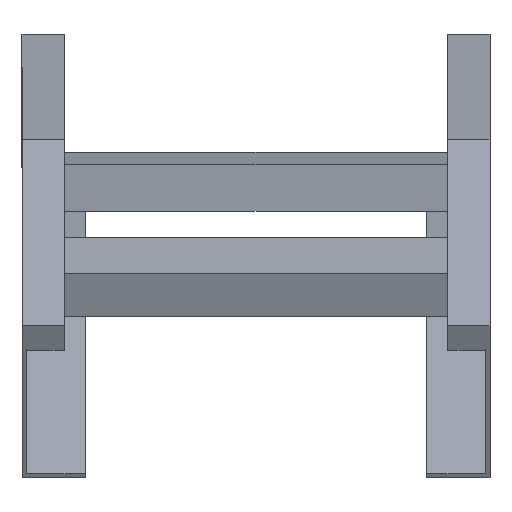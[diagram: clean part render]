
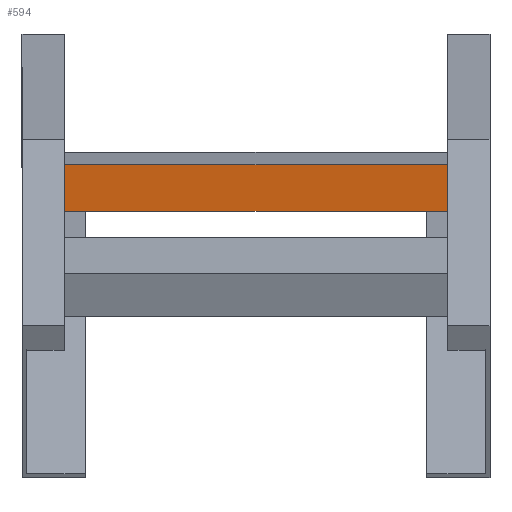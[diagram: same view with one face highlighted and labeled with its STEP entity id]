
A CAD part, top view. The second image highlights one B-rep face of the part: STEP entity #594.
In plain terms, the highlighted planar face has unit normal (0, -0.131, 0.991) as drawn and (0, 0, 1) by its records, which use the part's own axes.
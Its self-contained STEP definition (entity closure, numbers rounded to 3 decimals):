
#1 = CARTESIAN_POINT ( 'NONE',  ( 98., 20., 20.25 ) ) ;
#7 = CARTESIAN_POINT ( 'NONE',  ( 98., 20., 20.25 ) ) ;
#17 = LINE ( 'NONE', #1, #583 ) ;
#39 = AXIS2_PLACEMENT_3D ( 'NONE', #1150, #1049, #1370 ) ;
#73 = ORIENTED_EDGE ( 'NONE', *, *, #219, .T. ) ;
#219 = EDGE_CURVE ( 'NONE', #916, #1043, #1363, .T. ) ;
#233 = PLANE ( 'NONE',  #39 ) ;
#267 = EDGE_CURVE ( 'NONE', #1315, #1043, #1405, .T. ) ;
#330 = ORIENTED_EDGE ( 'NONE', *, *, #603, .T. ) ;
#356 = DIRECTION ( 'NONE',  ( -1., 0., 0. ) ) ;
#580 = FACE_OUTER_BOUND ( 'NONE', #1342, .T. ) ;
#583 = VECTOR ( 'NONE', #1401, 1000. ) ;
#588 = CARTESIAN_POINT ( 'NONE',  ( 98., 20., 20.25 ) ) ;
#594 = ADVANCED_FACE ( 'NONE', ( #580 ), #233, .F. ) ;
#603 = EDGE_CURVE ( 'NONE', #1354, #916, #707, .T. ) ;
#681 = VECTOR ( 'NONE', #356, 1000. ) ;
#707 = LINE ( 'NONE', #588, #1080 ) ;
#888 = CARTESIAN_POINT ( 'NONE',  ( 98., 0., 20.25 ) ) ;
#890 = ORIENTED_EDGE ( 'NONE', *, *, #982, .F. ) ;
#916 = VERTEX_POINT ( 'NONE', #930 ) ;
#930 = CARTESIAN_POINT ( 'NONE',  ( -98., 20., 20.25 ) ) ;
#954 = CARTESIAN_POINT ( 'NONE',  ( -98., 0., 20.25 ) ) ;
#982 = EDGE_CURVE ( 'NONE', #1354, #1315, #17, .T. ) ;
#1043 = VERTEX_POINT ( 'NONE', #954 ) ;
#1049 = DIRECTION ( 'NONE',  ( 0., 0., -1. ) ) ;
#1080 = VECTOR ( 'NONE', #1429, 1000. ) ;
#1106 = VECTOR ( 'NONE', #1152, 1000. ) ;
#1150 = CARTESIAN_POINT ( 'NONE',  ( 98., 20., 20.25 ) ) ;
#1152 = DIRECTION ( 'NONE',  ( 0., -1., 0. ) ) ;
#1256 = CARTESIAN_POINT ( 'NONE',  ( -98., 20., 20.25 ) ) ;
#1315 = VERTEX_POINT ( 'NONE', #888 ) ;
#1342 = EDGE_LOOP ( 'NONE', ( #73, #1471, #890, #330 ) ) ;
#1354 = VERTEX_POINT ( 'NONE', #7 ) ;
#1363 = LINE ( 'NONE', #1256, #1106 ) ;
#1370 = DIRECTION ( 'NONE',  ( 0., 1., 0. ) ) ;
#1399 = CARTESIAN_POINT ( 'NONE',  ( 98., 0., 20.25 ) ) ;
#1401 = DIRECTION ( 'NONE',  ( 0., -1., 0. ) ) ;
#1405 = LINE ( 'NONE', #1399, #681 ) ;
#1429 = DIRECTION ( 'NONE',  ( -1., 0., 0. ) ) ;
#1471 = ORIENTED_EDGE ( 'NONE', *, *, #267, .F. ) ;
